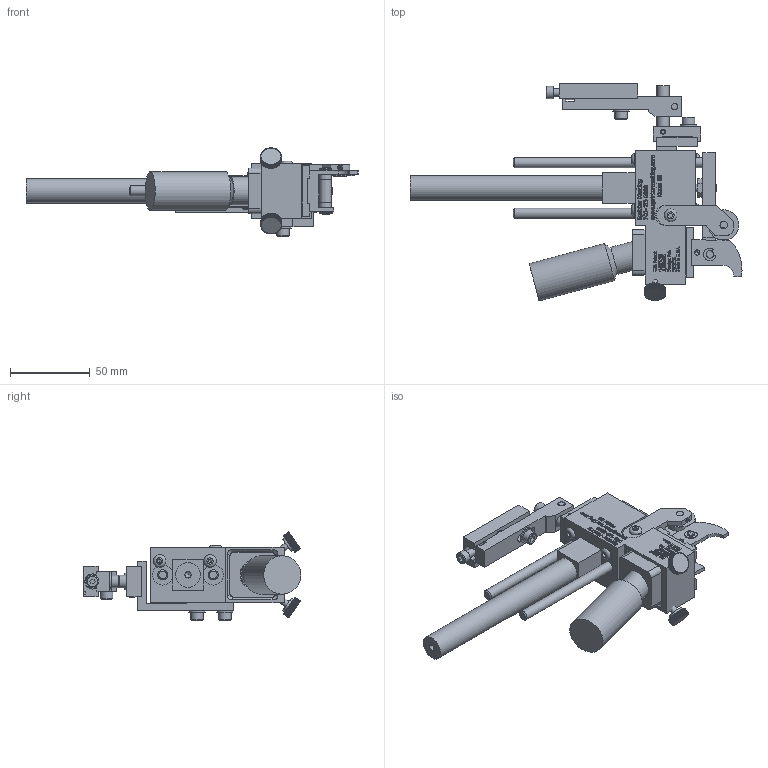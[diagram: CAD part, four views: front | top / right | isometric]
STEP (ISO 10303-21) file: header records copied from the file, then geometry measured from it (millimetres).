
FILE_DESCRIPTION((''),'2;1');
FILE_NAME('C:\Documents and Settings\Ron\My Documents\Inventor\Sprinter Drawing\Machines in Inventor\Model 88\Type\Ext Str\E1\Brkt\Ret\Model 88 ES1 ret w brkt mod 2012.stp','2012-03-16T13:36:20',('Ron'),(''),'Autodesk Inventor 2011','Autodesk Inventor 2011','');
FILE_SCHEMA(('AUTOMOTIVE_DESIGN { 1 0 10303 214 1 1 1 1 }'));
Length unit declared in the file: inch
Products named in the file (44): Model 88  ES1  ret w brkt mod 2012; 88 Frame Body; 66 Linear Bearing; Hexagon Socket Button Head Cap Screw - Inch 8 - 32 x 1/4; Hexagon Socket Head Cap Screw - Inch No. 8 - 32 UNC - 1 1/2; 10 Ink Resevior Lock Screw; INK RESERVOIR ASSY; 88 RESERVOIR; 88 Ink Pad; 66 INK BOTTLE; 88 STD Wheel Bractet Assy (prototype); 44 Wheel Retainer; 44 Cam Wheel; 88 Wheel Bracket Arm (prototype); Hexagon Socket Set Screw - Flat Point - Inch 4-48 UNF x 0.19; 8-32x0.25 Hexagon Socket Button Head Cap Screw ANSI/ASME B18.3; E1 Retracted; 88 Rod Carrier Retracted ES 1; 88 Rod Carrier; Type A - Hexagon Socket Set Screw - Cup Point - Inch 8-32 UNC x 0.32; 66 PIVOT SHAFT; 66 PIVOT SHAFT LOCKING RING; 23 66 invert block; AS 1112 (4)  - Metric M6; 66 Spring; 19 Rod Carrier Set Screws; 88 CLIP FOR MODELS(2); 88--CLIP plate; Hexagon Socket Set Screw - Flat Point - Inch 6-32 UNC x 0.45; 88 baselock (model sized); 88 baselock STAMP; Model 66, E1 .25 x 5; Model 88 RPB; rpb4; rpb3; rpb-1; rpb2; No. 10-24x0.88 Hexagon socket head cap screw ANSI/ASME B18.3; Type B - Plain Washer (Inch) No. 10 - narrow - Type B; 66 Machine Mounting Pivot Bracket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
Assembly tree (59 placements, depth 4):
  Model 88  ES1  ret w brkt mod 2012
    88 Frame Body
    66 Linear Bearing  x2
    Hexagon Socket Button Head Cap Screw - Inch 8 - 32 x 1/4  x4
    Hexagon Socket Head Cap Screw - Inch No. 8 - 32 UNC - 1 1/2  x2
    10 Ink Resevior Lock Screw  x2
    INK RESERVOIR ASSY
      88 RESERVOIR
      88 Ink Pad
      66 INK BOTTLE
    88 STD Wheel Bractet Assy (prototype)
      44 Wheel Retainer
      44 Cam Wheel
      88 Wheel Bracket Arm (prototype)
      Hexagon Socket Set Screw - Flat Point - Inch 4-48 UNF x 0.19
    8-32x0.25 Hexagon Socket Button Head Cap Screw ANSI/ASME B18.3
    E1 Retracted
    88 Rod Carrier Retracted ES 1
      88 Rod Carrier
      Type A - Hexagon Socket Set Screw - Cup Point - Inch 8-32 UNC x 0.32
      66 PIVOT SHAFT
      66 PIVOT SHAFT LOCKING RING  x2
      23 66 invert block
      AS 1112 (4)  - Metric M6
      66 Spring
      19 Rod Carrier Set Screws  x2
      88 CLIP FOR MODELS(2)
        88--CLIP plate
        Hexagon Socket Set Screw - Flat Point - Inch 6-32 UNC x 0.45
        88 baselock (model sized)
        88 baselock STAMP
      Model 66, E1 .25 x 5  x2
    Model 88 RPB
      rpb4
      rpb3
      rpb-1
      rpb2
      No. 10-24x0.88 Hexagon socket head cap screw ANSI/ASME B18.3  x5
      Type B - Plain Washer (Inch) No. 10 - narrow - Type B  x4
      66 Machine Mounting Pivot Bracket
      Pin - Hardened Ground Machine Dowel (Inch) 1/8 x 3/4
      Pin - Hardened Ground Machine Dowel (Inch) 1/8 x 3/8
    Hexagon Socket Set Screw - Flat Point - Inch 8-32 UNC x 0.32
    10-32 PORTS DECAL
Bounding box: 208.36 x 136.58 x 55.4 mm (x, y, z)
Volume: 204847.7 mm3; surface area: 98358.1 mm2
Topology: 427 solids, 427 shells, 6413 faces, 15720 edges, 9736 vertices
Faces by surface type: plane 4465, bspline 1294, cylinder 561, cone 70, torus 23
Full cylindrical faces by diameter (mm): 1.143 x1, 2.261 x1, 2.54 x2, 2.642 x1, 2.845 x1, 3.175 x4, 3.2 x1, 3.302 x14, 3.505 x1, 3.556 x1, 3.683 x2, 3.962 x10, 4.064 x2, 4.166 x11, 4.547 x2, 4.699 x3, 4.75 x4, 4.775 x2, 4.826 x8, 4.864 x2, 4.917 x1, 5.055 x1, 5.156 x7, 5.359 x1, 5.556 x1, 6.325 x4, 6.35 x7, 6.426 x1, 6.604 x1, 6.858 x2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
Entity records: 152765 total; most frequent: CARTESIAN_POINT 45406, ORIENTED_EDGE 23888, DIRECTION 17284, EDGE_CURVE 11944, VECTOR 8532, LINE 8532, VERTEX_POINT 7674, EDGE_LOOP 5354
